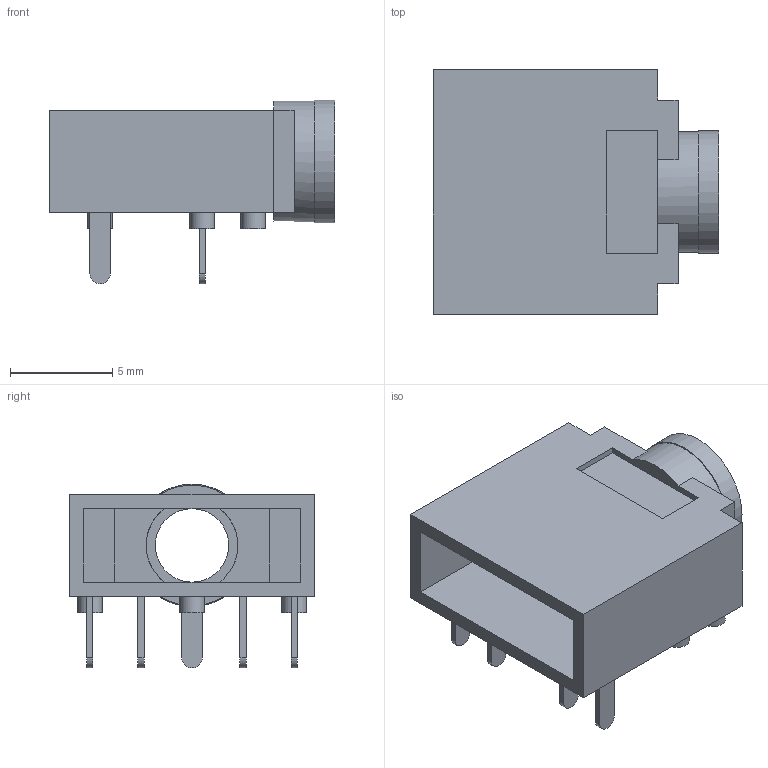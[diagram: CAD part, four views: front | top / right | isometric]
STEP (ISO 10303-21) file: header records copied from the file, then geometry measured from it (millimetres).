
FILE_DESCRIPTION(/* description */ ('STEP AP242','CAx-IF Rec.Pracs.---Representation and Presentation of Product Manufacturing Information (PMI)---4.0---2014-10-13','CAx-IF Rec.Pracs.---3D Tessellated Geometry---0.4---2014-09-14','2;1'),/* implementation_level */ '2;1');
FILE_NAME(/* name */ '6307ef7bed6bb308e05849d8',/* time_stamp */ '2022-08-25T21:54:04+00:00',/* author */ (''),/* organization */ (''),/* preprocessor_version */ 'ST-DEVELOPER v18.102',/* originating_system */ ' ',/* authorisation */ ' ');
FILE_SCHEMA (('AP242_MANAGED_MODEL_BASED_3D_ENGINEERING_MIM_LF { 1 0 10303 442 1 1 4 }'));
Length unit declared in the file: metre
Products named in the file (1): Jack
Bounding box: 14 x 12 x 9 mm (x, y, z)
Volume: 306.8 mm3; surface area: 965.3 mm2
Topology: 1 solids, 1 shells, 76 faces, 192 edges, 129 vertices
Faces by surface type: plane 62, cylinder 14
Full cylindrical faces by diameter (mm): 1.2 x5, 3.6 x1, 4.5 x1, 5.9 x1, 6 x1
Entity records: 2410 total; most frequent: CARTESIAN_POINT 375, DIRECTION 364, ORIENTED_EDGE 352, EDGE_CURVE 176, LINE 142, VECTOR 142, VERTEX_POINT 122, AXIS2_PLACEMENT_3D 111
